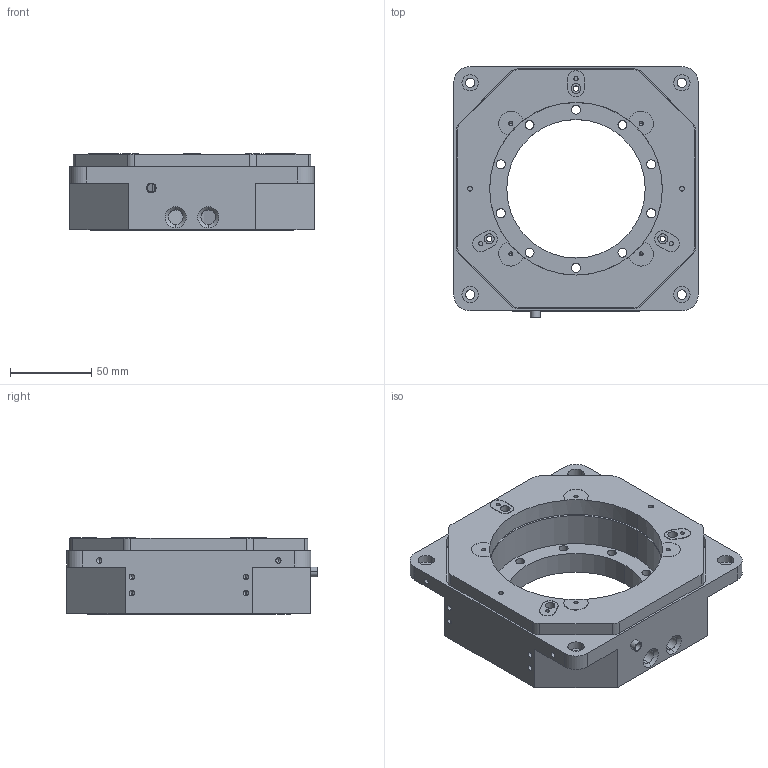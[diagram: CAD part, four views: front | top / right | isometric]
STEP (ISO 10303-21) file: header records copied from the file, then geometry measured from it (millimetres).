
FILE_DESCRIPTION (( 'STEP AP203' ), '1' );
FILE_NAME ('24015蚾饜极.STEP', '2024-06-07T03:57:01', ( '' ), ( '' ), 'SwSTEP 2.0', 'SolidWorks 2016', '' );
FILE_SCHEMA (( 'CONFIG_CONTROL_DESIGN' ));
Length unit declared in the file: millimetre
Products named in the file (4): 24015蚾饜极; M6-0.5誘杶; 24015奻裔; 24015菁釱
Assembly tree (3 placements, depth 2):
  24015蚾饜极
    24015菁釱
    24015奻裔
    M6-0.5誘杶
Bounding box: 150 x 154 x 47 mm (x, y, z)
Volume: 524514.4 mm3; surface area: 107276.3 mm2
Topology: 3 solids, 3 shells, 287 faces, 737 edges, 454 vertices
Faces by surface type: cylinder 171, plane 68, cone 48
Entity records: 9181 total; most frequent: CARTESIAN_POINT 1623, DIRECTION 1621, ORIENTED_EDGE 1386, EDGE_CURVE 693, AXIS2_PLACEMENT_3D 646, VERTEX_POINT 454, EDGE_LOOP 379, CIRCLE 353
